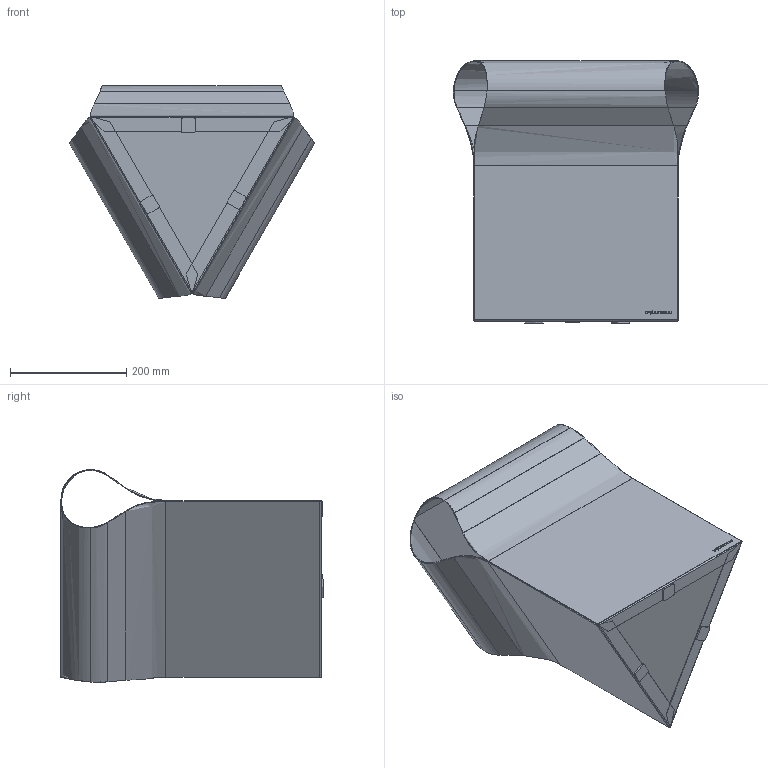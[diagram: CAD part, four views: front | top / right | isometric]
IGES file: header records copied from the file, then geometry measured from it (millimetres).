
Start section: SolidWorks IGES file using analytic representation for surfaces
Global section: file name: \\utenti\Dati Utenti\Tecnico\DC\2D - 3D per sito\3D\DeCastelli-3D-Efesto.igs; native system: SolidWorks 2022; preprocessor: SolidWorks 2022; author: Simonep; date: 240729.120256; units: millimetre
Bounding box: 422.41 x 451.43 x 366.33 mm (x, y, z)
Surface area: 1140171.7 mm2 (no closed solid volume)
Topology: 0 solids, 0 shells, 124 faces, 991 edges, 991 vertices
Faces by surface type: bspline 86, revolution 38
